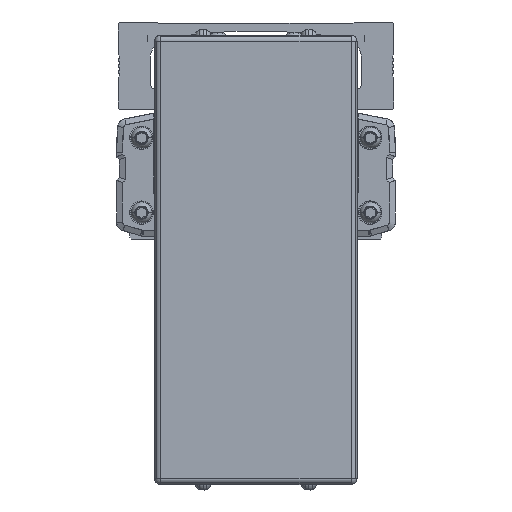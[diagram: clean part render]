
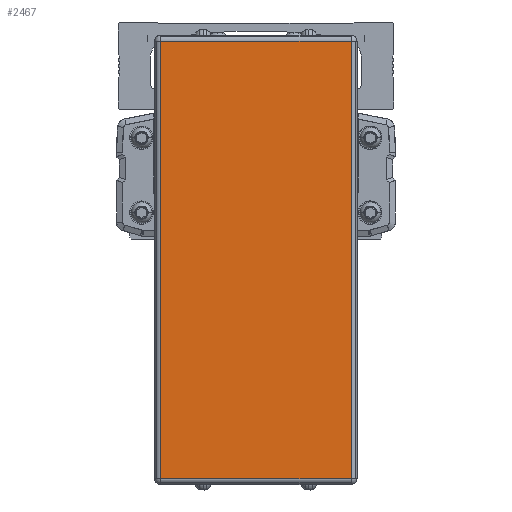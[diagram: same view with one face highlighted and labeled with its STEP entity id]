
A CAD part, front view. The second image highlights one B-rep face of the part: STEP entity #2467.
In plain terms, the highlighted planar face has unit normal (0, -1, 0).
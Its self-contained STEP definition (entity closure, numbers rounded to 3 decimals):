
#2467=ADVANCED_FACE('',(#6831),#6832,.T.);
#6831=FACE_OUTER_BOUND('',#13510,.T.);
#6832=PLANE('',#13511);
#13510=EDGE_LOOP('',(#21822,#21823,#21824,#21825));
#13511=AXIS2_PLACEMENT_3D('',#21826,#21827,#21828);
#21822=ORIENTED_EDGE('',*,*,#40856,.F.);
#21823=ORIENTED_EDGE('',*,*,#40857,.F.);
#21824=ORIENTED_EDGE('',*,*,#40858,.F.);
#21825=ORIENTED_EDGE('',*,*,#40859,.F.);
#21826=CARTESIAN_POINT('',(0.,-239.778,-50.1));
#21827=DIRECTION('',(0.0,-1.0,0.));
#21828=DIRECTION('',(1.0,0.0,0.0));
#40856=EDGE_CURVE('',#48600,#48601,#48602,.T.);
#40857=EDGE_CURVE('',#48603,#48600,#48604,.T.);
#40858=EDGE_CURVE('',#48605,#48603,#48606,.T.);
#40859=EDGE_CURVE('',#48601,#48605,#48607,.T.);
#48600=VERTEX_POINT('',#59929);
#48601=VERTEX_POINT('',#59930);
#48602=LINE('',#59931,#59932);
#48603=VERTEX_POINT('',#59933);
#48604=LINE('',#59934,#59935);
#48605=VERTEX_POINT('',#59936);
#48606=LINE('',#59937,#59938);
#48607=LINE('',#59939,#59940);
#59929=CARTESIAN_POINT('',(32.5,-239.778,24.5));
#59930=CARTESIAN_POINT('',(32.5,-239.778,-124.7));
#59931=CARTESIAN_POINT('',(32.5,-239.778,-50.1));
#59932=VECTOR('',#76035,10.0);
#59933=CARTESIAN_POINT('',(-32.5,-239.778,24.5));
#59934=CARTESIAN_POINT('',(0.,-239.778,24.5));
#59935=VECTOR('',#76036,10.0);
#59936=CARTESIAN_POINT('',(-32.5,-239.778,-124.7));
#59937=CARTESIAN_POINT('',(-32.5,-239.778,-50.1));
#59938=VECTOR('',#76037,10.0);
#59939=CARTESIAN_POINT('',(0.,-239.778,-124.7));
#59940=VECTOR('',#76038,10.0);
#76035=DIRECTION('',(0.0,0.,-1.0));
#76036=DIRECTION('',(1.0,0.0,0.0));
#76037=DIRECTION('',(0.0,0.,1.0));
#76038=DIRECTION('',(-1.0,0.0,0.0));
